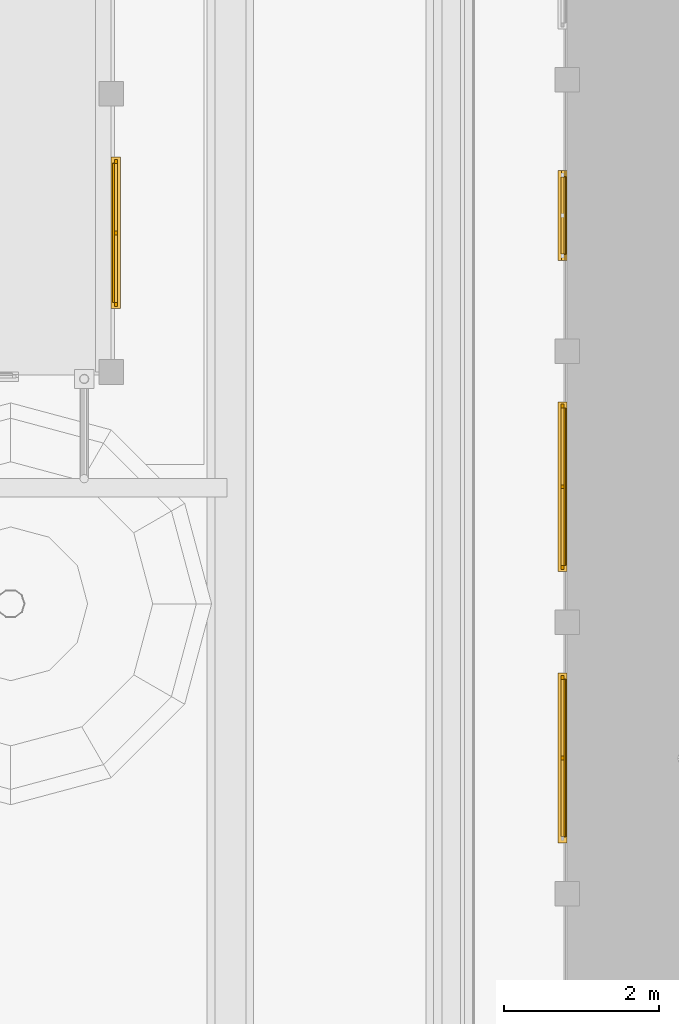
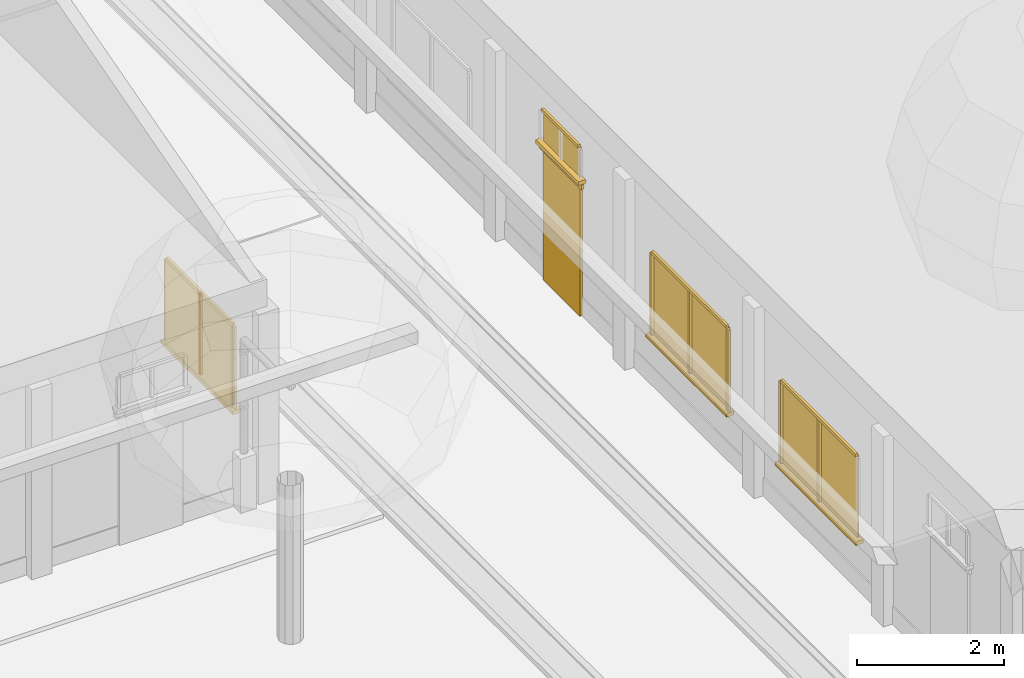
# One storey, part 68 of 177: 20 windows, 2 doors.
"""IFC4 building model written with IfcOpenShell, lengths in metres."""

from ifc_helpers import new_model, si_unit, origin, origin_with_axes, place, context, subcontext, project, spatial, triangles, element, save


model = new_model("IFC4")

# Units and contexts
model_context = context("Model", 3, precision=1e-05, world=origin_with_axes())
body_context = subcontext(model_context, "Body", "Model", "MODEL_VIEW")
ifc_project = project(units=[si_unit("LENGTHUNIT", "METRE"), si_unit("AREAUNIT", "SQUARE_METRE"), si_unit("VOLUMEUNIT", "CUBIC_METRE"), si_unit("PLANEANGLEUNIT", "RADIAN")], contexts=[model_context])

# Site, building, storey
site_placement = place(None, origin_with_axes())
site = spatial("IfcSite", under=ifc_project, at=site_placement, Name="Predio Los Mangos - Morales, San Martín", CompositionType="ELEMENT")
building_placement = place(site_placement, origin())
building = spatial("IfcBuilding", under=site, at=building_placement, Name="Hogar de Refugio Temporal", CompositionType="ELEMENT")
storey_placement = place(building_placement, origin())
storey = spatial("IfcBuildingStorey", under=building, at=storey_placement, Name="NIVEL 1 (NPT +0.00)", CompositionType="ELEMENT", Elevation=0.0)

# Windows
window_1_placement = place(storey_placement, origin())
element("IfcWindow", 1, at=window_1_placement, inside=storey, Name="E-08_vg0_vid", ObjectType="Ventana", PredefinedType="WINDOW", context=body_context, shape_type="Tessellation", body=[
    triangles([(49.82, 117.9, 1.05), (49.84, 117.9, 1.05), (49.84, 119.7, 1.05), (49.82, 119.7, 1.05), (49.82, 117.9, 2.4), (49.84, 117.9, 2.4), (49.84, 119.7, 2.4), (49.82, 119.7, 2.4)], [[1, 4, 3], [1, 3, 2], [5, 6, 7], [5, 7, 8], [1, 2, 6], [1, 6, 5], [2, 3, 7], [2, 7, 6], [3, 4, 8], [3, 8, 7], [4, 1, 5], [4, 5, 8]]),
])
window_2_placement = place(storey_placement, origin())
element("IfcWindow", 2, at=window_2_placement, inside=storey, Name="E-08_vg0_m", ObjectType="Ventana", PredefinedType="WINDOW", context=body_context, shape_type="Tessellation", body=[
    triangles([(49.84, 117.85, 1.05), (49.88, 117.85, 1.05), (49.88, 117.9, 1.05), (49.84, 117.9, 1.05), (49.84, 117.85, 2.4), (49.88, 117.85, 2.4), (49.88, 117.9, 2.4), (49.84, 117.9, 2.4)], [[1, 4, 3], [1, 3, 2], [5, 6, 7], [5, 7, 8], [1, 2, 6], [1, 6, 5], [2, 3, 7], [2, 7, 6], [3, 4, 8], [3, 8, 7], [4, 1, 5], [4, 5, 8]]),
])
window_3_placement = place(storey_placement, origin())
element("IfcWindow", 3, at=window_3_placement, inside=storey, Name="E-08_vg0_m", ObjectType="Ventana", PredefinedType="WINDOW", context=body_context, shape_type="Tessellation", body=[
    triangles([(49.84, 119.7, 1.05), (49.88, 119.7, 1.05), (49.88, 119.75, 1.05), (49.84, 119.75, 1.05), (49.84, 119.7, 2.4), (49.88, 119.7, 2.4), (49.88, 119.75, 2.4), (49.84, 119.75, 2.4)], [[1, 4, 3], [1, 3, 2], [5, 6, 7], [5, 7, 8], [1, 2, 6], [1, 6, 5], [2, 3, 7], [2, 7, 6], [3, 4, 8], [3, 8, 7], [4, 1, 5], [4, 5, 8]]),
])
window_4_placement = place(storey_placement, origin())
element("IfcWindow", 4, at=window_4_placement, inside=storey, Name="E-08_vg0_m", ObjectType="Ventana", PredefinedType="WINDOW", context=body_context, shape_type="Tessellation", body=[
    triangles([(49.84, 117.9, 2.4), (49.88, 117.9, 2.4), (49.88, 119.7, 2.4), (49.84, 119.7, 2.4), (49.84, 117.9, 2.45), (49.88, 117.9, 2.45), (49.88, 119.7, 2.45), (49.84, 119.7, 2.45)], [[1, 4, 3], [1, 3, 2], [5, 6, 7], [5, 7, 8], [1, 2, 6], [1, 6, 5], [2, 3, 7], [2, 7, 6], [3, 4, 8], [3, 8, 7], [4, 1, 5], [4, 5, 8]]),
])
window_5_placement = place(storey_placement, origin())
element("IfcWindow", 5, at=window_5_placement, inside=storey, Name="E-08_vg0_m", ObjectType="Ventana", PredefinedType="WINDOW", context=body_context, shape_type="Tessellation", body=[
    triangles([(49.84, 118.775, 1.05), (49.88, 118.775, 1.05), (49.88, 118.825, 1.05), (49.84, 118.825, 1.05), (49.84, 118.775, 2.4), (49.88, 118.775, 2.4), (49.88, 118.825, 2.4), (49.84, 118.825, 2.4)], [[1, 4, 3], [1, 3, 2], [5, 6, 7], [5, 7, 8], [1, 2, 6], [1, 6, 5], [2, 3, 7], [2, 7, 6], [3, 4, 8], [3, 8, 7], [4, 1, 5], [4, 5, 8]]),
])
window_6_placement = place(storey_placement, origin())
element("IfcWindow", 6, at=window_6_placement, inside=storey, Name="E-08_vg0_alf", ObjectType="Ventana", PredefinedType="WINDOW", context=body_context, shape_type="Tessellation", body=[
    triangles([(49.8, 117.82, 0.99), (49.92, 117.82, 0.99), (49.92, 119.78, 0.99), (49.8, 119.78, 0.99), (49.8, 117.82, 1.05), (49.92, 117.82, 1.05), (49.92, 119.78, 1.05), (49.8, 119.78, 1.05)], [[1, 4, 3], [1, 3, 2], [5, 6, 7], [5, 7, 8], [1, 2, 6], [1, 6, 5], [2, 3, 7], [2, 7, 6], [3, 4, 8], [3, 8, 7], [4, 1, 5], [4, 5, 8]]),
])
window_7_placement = place(storey_placement, origin())
element("IfcWindow", 7, at=window_7_placement, inside=storey, Name="E-07_v5_vid", ObjectType="Ventana", PredefinedType="WINDOW", context=body_context, shape_type="Tessellation", body=[
    triangles([(55.66, 110.9871, 1.05), (55.68, 110.9871, 1.05), (55.68, 113.0229, 1.05), (55.66, 113.0229, 1.05), (55.66, 110.9871, 2.4), (55.68, 110.9871, 2.4), (55.68, 113.0229, 2.4), (55.66, 113.0229, 2.4)], [[1, 4, 3], [1, 3, 2], [5, 6, 7], [5, 7, 8], [1, 2, 6], [1, 6, 5], [2, 3, 7], [2, 7, 6], [3, 4, 8], [3, 8, 7], [4, 1, 5], [4, 5, 8]]),
])
window_8_placement = place(storey_placement, origin())
element("IfcWindow", 8, at=window_8_placement, inside=storey, Name="E-07_v5_m", ObjectType="Ventana", PredefinedType="WINDOW", context=body_context, shape_type="Tessellation", body=[
    triangles([(55.62, 113.0229, 1.05), (55.66, 113.0229, 1.05), (55.66, 113.0729, 1.05), (55.62, 113.0729, 1.05), (55.62, 113.0229, 2.4), (55.66, 113.0229, 2.4), (55.66, 113.0729, 2.4), (55.62, 113.0729, 2.4)], [[1, 4, 3], [1, 3, 2], [5, 6, 7], [5, 7, 8], [1, 2, 6], [1, 6, 5], [2, 3, 7], [2, 7, 6], [3, 4, 8], [3, 8, 7], [4, 1, 5], [4, 5, 8]]),
])
window_9_placement = place(storey_placement, origin())
element("IfcWindow", 9, at=window_9_placement, inside=storey, Name="E-07_v5_m", ObjectType="Ventana", PredefinedType="WINDOW", context=body_context, shape_type="Tessellation", body=[
    triangles([(55.62, 110.9871, 2.4), (55.66, 110.9871, 2.4), (55.66, 113.0229, 2.4), (55.62, 113.0229, 2.4), (55.62, 110.9871, 2.45), (55.66, 110.9871, 2.45), (55.66, 113.0229, 2.45), (55.62, 113.0229, 2.45)], [[1, 4, 3], [1, 3, 2], [5, 6, 7], [5, 7, 8], [1, 2, 6], [1, 6, 5], [2, 3, 7], [2, 7, 6], [3, 4, 8], [3, 8, 7], [4, 1, 5], [4, 5, 8]]),
])
window_10_placement = place(storey_placement, origin())
element("IfcWindow", 10, at=window_10_placement, inside=storey, Name="E-07_v5_m", ObjectType="Ventana", PredefinedType="WINDOW", context=body_context, shape_type="Tessellation", body=[
    triangles([(55.62, 111.98, 1.05), (55.66, 111.98, 1.05), (55.66, 112.03, 1.05), (55.62, 112.03, 1.05), (55.62, 111.98, 2.4), (55.66, 111.98, 2.4), (55.66, 112.03, 2.4), (55.62, 112.03, 2.4)], [[1, 4, 3], [1, 3, 2], [5, 6, 7], [5, 7, 8], [1, 2, 6], [1, 6, 5], [2, 3, 7], [2, 7, 6], [3, 4, 8], [3, 8, 7], [4, 1, 5], [4, 5, 8]]),
])
window_11_placement = place(storey_placement, origin())
element("IfcWindow", 11, at=window_11_placement, inside=storey, Name="E-07_v5_alf", ObjectType="Ventana", PredefinedType="WINDOW", context=body_context, shape_type="Tessellation", body=[
    triangles([(55.7, 110.9071, 0.99), (55.58, 110.9071, 0.99), (55.58, 113.1029, 0.99), (55.7, 113.1029, 0.99), (55.7, 110.9071, 1.05), (55.58, 110.9071, 1.05), (55.58, 113.1029, 1.05), (55.7, 113.1029, 1.05)], [[1, 4, 3], [1, 3, 2], [5, 6, 7], [5, 7, 8], [1, 2, 6], [1, 6, 5], [2, 3, 7], [2, 7, 6], [3, 4, 8], [3, 8, 7], [4, 1, 5], [4, 5, 8]]),
])
window_12_placement = place(storey_placement, origin())
element("IfcWindow", 12, at=window_12_placement, inside=storey, Name="E-07_v6_vid", ObjectType="Ventana", PredefinedType="WINDOW", context=body_context, shape_type="Tessellation", body=[
    triangles([(55.66, 114.4971, 1.05), (55.68, 114.4971, 1.05), (55.68, 116.5329, 1.05), (55.66, 116.5329, 1.05), (55.66, 114.4971, 2.4), (55.68, 114.4971, 2.4), (55.68, 116.5329, 2.4), (55.66, 116.5329, 2.4)], [[1, 4, 3], [1, 3, 2], [5, 6, 7], [5, 7, 8], [1, 2, 6], [1, 6, 5], [2, 3, 7], [2, 7, 6], [3, 4, 8], [3, 8, 7], [4, 1, 5], [4, 5, 8]]),
])
window_13_placement = place(storey_placement, origin())
element("IfcWindow", 13, at=window_13_placement, inside=storey, Name="E-07_v6_m", ObjectType="Ventana", PredefinedType="WINDOW", context=body_context, shape_type="Tessellation", body=[
    triangles([(55.62, 114.4471, 1.05), (55.66, 114.4471, 1.05), (55.66, 114.4971, 1.05), (55.62, 114.4971, 1.05), (55.62, 114.4471, 2.4), (55.66, 114.4471, 2.4), (55.66, 114.4971, 2.4), (55.62, 114.4971, 2.4)], [[1, 4, 3], [1, 3, 2], [5, 6, 7], [5, 7, 8], [1, 2, 6], [1, 6, 5], [2, 3, 7], [2, 7, 6], [3, 4, 8], [3, 8, 7], [4, 1, 5], [4, 5, 8]]),
])
window_14_placement = place(storey_placement, origin())
element("IfcWindow", 14, at=window_14_placement, inside=storey, Name="E-07_v6_m", ObjectType="Ventana", PredefinedType="WINDOW", context=body_context, shape_type="Tessellation", body=[
    triangles([(55.62, 116.5329, 1.05), (55.66, 116.5329, 1.05), (55.66, 116.5829, 1.05), (55.62, 116.5829, 1.05), (55.62, 116.5329, 2.4), (55.66, 116.5329, 2.4), (55.66, 116.5829, 2.4), (55.62, 116.5829, 2.4)], [[1, 4, 3], [1, 3, 2], [5, 6, 7], [5, 7, 8], [1, 2, 6], [1, 6, 5], [2, 3, 7], [2, 7, 6], [3, 4, 8], [3, 8, 7], [4, 1, 5], [4, 5, 8]]),
])
window_15_placement = place(storey_placement, origin())
element("IfcWindow", 15, at=window_15_placement, inside=storey, Name="E-07_v6_m", ObjectType="Ventana", PredefinedType="WINDOW", context=body_context, shape_type="Tessellation", body=[
    triangles([(55.62, 114.4971, 2.4), (55.66, 114.4971, 2.4), (55.66, 116.5329, 2.4), (55.62, 116.5329, 2.4), (55.62, 114.4971, 2.45), (55.66, 114.4971, 2.45), (55.66, 116.5329, 2.45), (55.62, 116.5329, 2.45)], [[1, 4, 3], [1, 3, 2], [5, 6, 7], [5, 7, 8], [1, 2, 6], [1, 6, 5], [2, 3, 7], [2, 7, 6], [3, 4, 8], [3, 8, 7], [4, 1, 5], [4, 5, 8]]),
])
window_16_placement = place(storey_placement, origin())
element("IfcWindow", 16, at=window_16_placement, inside=storey, Name="E-07_v6_m", ObjectType="Ventana", PredefinedType="WINDOW", context=body_context, shape_type="Tessellation", body=[
    triangles([(55.62, 115.49, 1.05), (55.66, 115.49, 1.05), (55.66, 115.54, 1.05), (55.62, 115.54, 1.05), (55.62, 115.49, 2.4), (55.66, 115.49, 2.4), (55.66, 115.54, 2.4), (55.62, 115.54, 2.4)], [[1, 4, 3], [1, 3, 2], [5, 6, 7], [5, 7, 8], [1, 2, 6], [1, 6, 5], [2, 3, 7], [2, 7, 6], [3, 4, 8], [3, 8, 7], [4, 1, 5], [4, 5, 8]]),
])
window_17_placement = place(storey_placement, origin())
element("IfcWindow", 17, at=window_17_placement, inside=storey, Name="E-07_v6_alf", ObjectType="Ventana", PredefinedType="WINDOW", context=body_context, shape_type="Tessellation", body=[
    triangles([(55.7, 114.4171, 0.99), (55.58, 114.4171, 0.99), (55.58, 116.6129, 0.99), (55.7, 116.6129, 0.99), (55.7, 114.4171, 1.05), (55.58, 114.4171, 1.05), (55.58, 116.6129, 1.05), (55.7, 116.6129, 1.05)], [[1, 4, 3], [1, 3, 2], [5, 6, 7], [5, 7, 8], [1, 2, 6], [1, 6, 5], [2, 3, 7], [2, 7, 6], [3, 4, 8], [3, 8, 7], [4, 1, 5], [4, 5, 8]]),
])

# Doors
door_1_placement = place(storey_placement, origin())
element("IfcDoor", 18, at=door_1_placement, inside=storey, Name="E-07_p7", ObjectType="Puerta", PredefinedType="DOOR", context=body_context, shape_type="Tessellation", body=[
    triangles([(55.65, 118.525, 0.15), (55.69, 118.525, 0.15), (55.69, 119.525, 0.15), (55.65, 119.525, 0.15), (55.65, 118.525, 2.3), (55.69, 118.525, 2.3), (55.69, 119.525, 2.3), (55.65, 119.525, 2.3)], [[1, 4, 3], [1, 3, 2], [5, 6, 7], [5, 7, 8], [1, 2, 6], [1, 6, 5], [2, 3, 7], [2, 7, 6], [3, 4, 8], [3, 8, 7], [4, 1, 5], [4, 5, 8]]),
])
door_2_placement = place(storey_placement, origin())
element("IfcDoor", 19, at=door_2_placement, inside=storey, Name="E-07_p7_marco", ObjectType="Puerta", PredefinedType="DOOR", context=body_context, shape_type="Tessellation", body=[
    triangles([(55.63, 118.445, 2.3), (55.67, 118.445, 2.3), (55.67, 119.605, 2.3), (55.63, 119.605, 2.3), (55.63, 118.445, 2.38), (55.67, 118.445, 2.38), (55.67, 119.605, 2.38), (55.63, 119.605, 2.38)], [[1, 4, 3], [1, 3, 2], [5, 6, 7], [5, 7, 8], [1, 2, 6], [1, 6, 5], [2, 3, 7], [2, 7, 6], [3, 4, 8], [3, 8, 7], [4, 1, 5], [4, 5, 8]]),
])

# Windows
window_18_placement = place(storey_placement, origin())
element("IfcWindow", 20, at=window_18_placement, inside=storey, Name="E-07_vt7_vid", ObjectType="Ventana", PredefinedType="WINDOW", context=body_context, shape_type="Tessellation", body=[
    triangles([(55.66, 118.525, 2.45), (55.68, 118.525, 2.45), (55.68, 119.525, 2.45), (55.66, 119.525, 2.45), (55.66, 118.525, 2.95), (55.68, 118.525, 2.95), (55.68, 119.525, 2.95), (55.66, 119.525, 2.95)], [[1, 4, 3], [1, 3, 2], [5, 6, 7], [5, 7, 8], [1, 2, 6], [1, 6, 5], [2, 3, 7], [2, 7, 6], [3, 4, 8], [3, 8, 7], [4, 1, 5], [4, 5, 8]]),
])
window_19_placement = place(storey_placement, origin())
element("IfcWindow", 21, at=window_19_placement, inside=storey, Name="E-07_vt7_m", ObjectType="Ventana", PredefinedType="WINDOW", context=body_context, shape_type="Tessellation", body=[
    triangles([(55.62, 118.525, 2.95), (55.66, 118.525, 2.95), (55.66, 119.525, 2.95), (55.62, 119.525, 2.95), (55.62, 118.525, 3.0), (55.66, 118.525, 3.0), (55.66, 119.525, 3.0), (55.62, 119.525, 3.0)], [[1, 4, 3], [1, 3, 2], [5, 6, 7], [5, 7, 8], [1, 2, 6], [1, 6, 5], [2, 3, 7], [2, 7, 6], [3, 4, 8], [3, 8, 7], [4, 1, 5], [4, 5, 8]]),
])
window_20_placement = place(storey_placement, origin())
element("IfcWindow", 22, at=window_20_placement, inside=storey, Name="E-07_vt7_alf", ObjectType="Ventana", PredefinedType="WINDOW", context=body_context, shape_type="Tessellation", body=[
    triangles([(55.7, 118.445, 2.39), (55.58, 118.445, 2.39), (55.58, 119.605, 2.39), (55.7, 119.605, 2.39), (55.7, 118.445, 2.45), (55.58, 118.445, 2.45), (55.58, 119.605, 2.45), (55.7, 119.605, 2.45)], [[1, 4, 3], [1, 3, 2], [5, 6, 7], [5, 7, 8], [1, 2, 6], [1, 6, 5], [2, 3, 7], [2, 7, 6], [3, 4, 8], [3, 8, 7], [4, 1, 5], [4, 5, 8]]),
])

save(model, "model.ifc")
